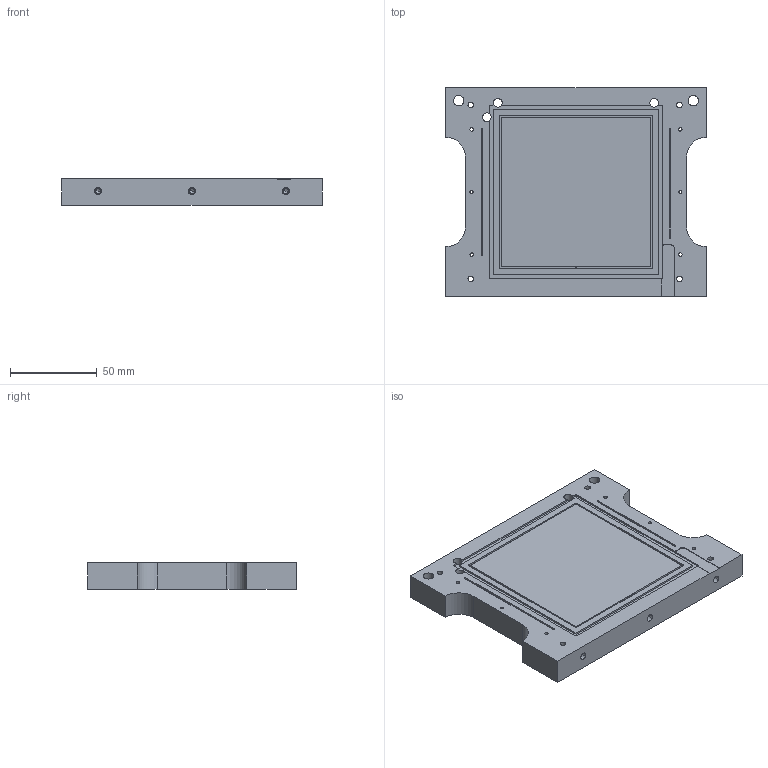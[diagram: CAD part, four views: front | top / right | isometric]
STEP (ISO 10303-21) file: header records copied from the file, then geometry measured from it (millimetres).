
FILE_DESCRIPTION(('CATIA V5 STEP Exchange'),'2;1');
FILE_NAME('D:\CATIA\ATLAS\Atlas_Maarten\atlas_upgrade_maarten\Ass.Module\STP\Base_Outil_2.stp','2010-09-02T14:42:05+00:00',('none'),('none'),'CATIA Version 5 Release 18 SP 4 (IN-10)','CATIA V5 STEP AP203','none');
FILE_SCHEMA(('CONFIG_CONTROL_DESIGN'));
Length unit declared in the file: millimetre
Products named in the file (1): Base_Outil_2
Bounding box: 150 x 120 x 15 mm (x, y, z)
Volume: 245245.2 mm3; surface area: 46523.7 mm2
Topology: 1 solids, 1 shells, 121 faces, 339 edges, 215 vertices
Faces by surface type: cylinder 66, plane 43, cone 12
Entity records: 3707 total; most frequent: CARTESIAN_POINT 696, ORIENTED_EDGE 666, DIRECTION 489, EDGE_CURVE 333, AXIS2_PLACEMENT_3D 219, VERTEX_POINT 215, VECTOR 190, LINE 190
